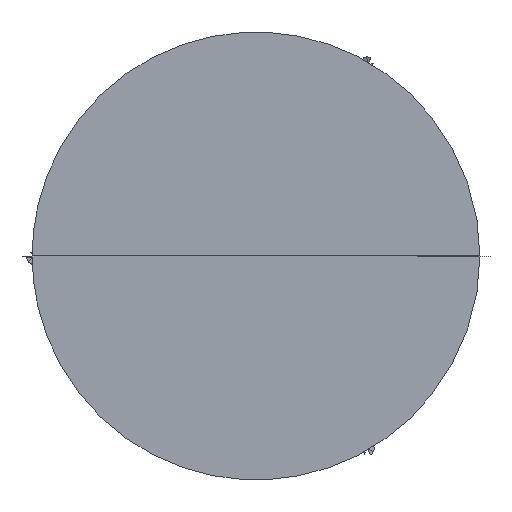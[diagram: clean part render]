
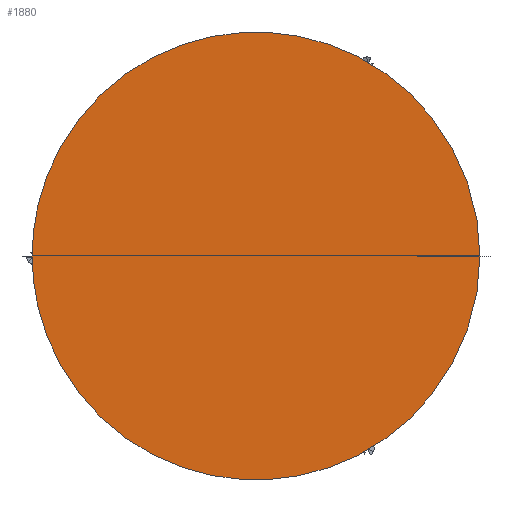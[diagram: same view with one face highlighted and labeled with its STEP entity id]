
A CAD part, top view. The second image highlights one B-rep face of the part: STEP entity #1880.
In plain terms, the highlighted planar face has unit normal (0, 0, 1).
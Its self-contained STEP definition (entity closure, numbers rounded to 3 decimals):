
#146=PLANE('',#6523);
#1880=ADVANCED_FACE('',(#2121),#146,.T.);
#2121=FACE_OUTER_BOUND('',#2362,.T.);
#2362=EDGE_LOOP('',(#2679,#2680));
#2679=ORIENTED_EDGE('',*,*,#3231,.T.);
#2680=ORIENTED_EDGE('',*,*,#3232,.F.);
#3231=EDGE_CURVE('',#3940,#3941,#6071,.T.);
#3232=EDGE_CURVE('',#3940,#3941,#6072,.T.);
#3940=VERTEX_POINT('',#6748);
#3941=VERTEX_POINT('',#6749);
#6071=(
BOUNDED_CURVE()
B_SPLINE_CURVE(2,(#6750,#6751,#6752,#6753,#6754),.UNSPECIFIED.,.F.,.F.)
B_SPLINE_CURVE_WITH_KNOTS((3,2,3),(0.,1.571,3.142),
 .UNSPECIFIED.)
CURVE()
GEOMETRIC_REPRESENTATION_ITEM()
RATIONAL_B_SPLINE_CURVE((1.,0.707,1.,0.707,1.))
REPRESENTATION_ITEM('')
);
#6072=(
BOUNDED_CURVE()
B_SPLINE_CURVE(2,(#6755,#6756,#6757,#6758,#6759),.UNSPECIFIED.,.F.,.F.)
B_SPLINE_CURVE_WITH_KNOTS((3,2,3),(0.,1.571,3.142),
 .UNSPECIFIED.)
CURVE()
GEOMETRIC_REPRESENTATION_ITEM()
RATIONAL_B_SPLINE_CURVE((1.,0.707,1.,0.707,1.))
REPRESENTATION_ITEM('')
);
#6523=AXIS2_PLACEMENT_3D('',#6747,#6572,$);
#6572=DIRECTION('',(0.,0.,1.));
#6747=CARTESIAN_POINT('',(325.896,291.064,441.731));
#6748=CARTESIAN_POINT('',(322.452,0.62,441.731));
#6749=CARTESIAN_POINT('',(-251.548,0.62,441.731));
#6750=CARTESIAN_POINT('',(322.452,0.62,441.731));
#6751=CARTESIAN_POINT('',(322.452,287.62,441.731));
#6752=CARTESIAN_POINT('',(35.452,287.62,441.731));
#6753=CARTESIAN_POINT('',(-251.548,287.62,441.731));
#6754=CARTESIAN_POINT('',(-251.548,0.62,441.731));
#6755=CARTESIAN_POINT('',(322.452,0.62,441.731));
#6756=CARTESIAN_POINT('',(322.452,-286.38,441.731));
#6757=CARTESIAN_POINT('',(35.452,-286.38,441.731));
#6758=CARTESIAN_POINT('',(-251.548,-286.38,441.731));
#6759=CARTESIAN_POINT('',(-251.548,0.62,441.731));
